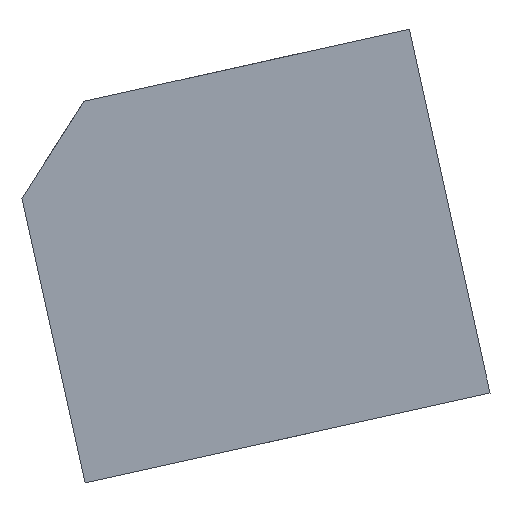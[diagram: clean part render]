
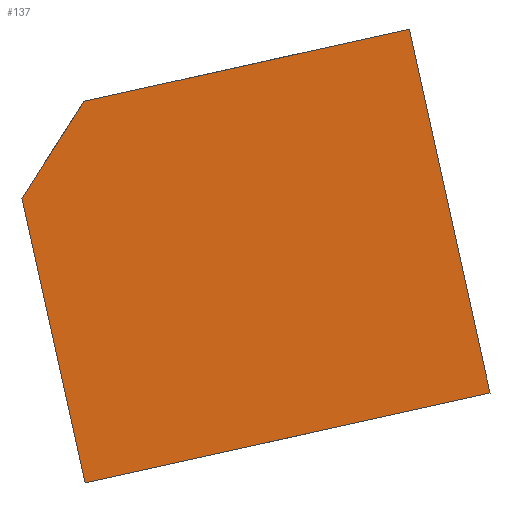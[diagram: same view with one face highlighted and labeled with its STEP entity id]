
A CAD part, front view. The second image highlights one B-rep face of the part: STEP entity #137.
In plain terms, the highlighted planar face has unit normal (0, -1, 0).
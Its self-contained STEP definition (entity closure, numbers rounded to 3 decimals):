
#21 = EDGE_CURVE('',#22,#24,#26,.T.);
#22 = VERTEX_POINT('',#23);
#23 = CARTESIAN_POINT('',(7.597,-85.8,-202.09));
#24 = VERTEX_POINT('',#25);
#25 = CARTESIAN_POINT('',(5.351,-85.8,-191.961));
#26 = SURFACE_CURVE('',#27,(#31,#43),.PCURVE_S1.);
#27 = LINE('',#28,#29);
#28 = CARTESIAN_POINT('',(7.597,-85.8,-202.09));
#29 = VECTOR('',#30,1.);
#30 = DIRECTION('',(-0.216,0.,0.976));
#31 = PCURVE('',#32,#37);
#32 = PLANE('',#33);
#33 = AXIS2_PLACEMENT_3D('',#34,#35,#36);
#34 = CARTESIAN_POINT('',(7.597,-85.8,-202.09));
#35 = DIRECTION('',(0.976,0.,0.216));
#36 = DIRECTION('',(-0.216,0.,0.976));
#37 = DEFINITIONAL_REPRESENTATION('',(#38),#42);
#38 = LINE('',#39,#40);
#39 = CARTESIAN_POINT('',(0.,0.));
#40 = VECTOR('',#41,1.);
#41 = DIRECTION('',(1.,0.));
#42 = ( GEOMETRIC_REPRESENTATION_CONTEXT(2) 
PARAMETRIC_REPRESENTATION_CONTEXT() REPRESENTATION_CONTEXT('2D SPACE',''
  ) );
#43 = PCURVE('',#44,#49);
#44 = PLANE('',#45);
#45 = AXIS2_PLACEMENT_3D('',#46,#47,#48);
#46 = CARTESIAN_POINT('',(7.597,-85.8,-202.09));
#47 = DIRECTION('',(0.,1.,0.));
#48 = DIRECTION('',(-0.216,0.,0.976));
#49 = DEFINITIONAL_REPRESENTATION('',(#50),#54);
#50 = LINE('',#51,#52);
#51 = CARTESIAN_POINT('',(0.,0.));
#52 = VECTOR('',#53,1.);
#53 = DIRECTION('',(1.,0.));
#54 = ( GEOMETRIC_REPRESENTATION_CONTEXT(2) 
PARAMETRIC_REPRESENTATION_CONTEXT() REPRESENTATION_CONTEXT('2D SPACE',''
  ) );
#72 = PLANE('',#73);
#73 = AXIS2_PLACEMENT_3D('',#74,#75,#76);
#74 = CARTESIAN_POINT('',(7.597,-85.8,-202.09));
#75 = DIRECTION('',(-0.216,0.,0.976));
#76 = DIRECTION('',(0.976,0.,0.216));
#126 = PLANE('',#127);
#127 = AXIS2_PLACEMENT_3D('',#128,#129,#130);
#128 = CARTESIAN_POINT('',(7.631,-99.8,-188.383));
#129 = DIRECTION('',(-0.843,0.,0.537));
#130 = DIRECTION('',(-0.537,0.,-0.843));
#137 = ADVANCED_FACE('',(#138),#44,.F.);
#138 = FACE_BOUND('',#139,.F.);
#139 = EDGE_LOOP('',(#140,#170,#191,#192,#215));
#140 = ORIENTED_EDGE('',*,*,#141,.F.);
#141 = EDGE_CURVE('',#142,#144,#146,.T.);
#142 = VERTEX_POINT('',#143);
#143 = CARTESIAN_POINT('',(22.021,-85.8,-198.892));
#144 = VERTEX_POINT('',#145);
#145 = CARTESIAN_POINT('',(19.148,-85.8,-185.932));
#146 = SURFACE_CURVE('',#147,(#151,#158),.PCURVE_S1.);
#147 = LINE('',#148,#149);
#148 = CARTESIAN_POINT('',(22.021,-85.8,-198.892));
#149 = VECTOR('',#150,1.);
#150 = DIRECTION('',(-0.216,0.,0.976));
#151 = PCURVE('',#44,#152);
#152 = DEFINITIONAL_REPRESENTATION('',(#153),#157);
#153 = LINE('',#154,#155);
#154 = CARTESIAN_POINT('',(0.,14.775));
#155 = VECTOR('',#156,1.);
#156 = DIRECTION('',(1.,0.));
#157 = ( GEOMETRIC_REPRESENTATION_CONTEXT(2) 
PARAMETRIC_REPRESENTATION_CONTEXT() REPRESENTATION_CONTEXT('2D SPACE',''
  ) );
#158 = PCURVE('',#159,#164);
#159 = PLANE('',#160);
#160 = AXIS2_PLACEMENT_3D('',#161,#162,#163);
#161 = CARTESIAN_POINT('',(22.021,-85.8,-198.892));
#162 = DIRECTION('',(0.976,0.,0.216));
#163 = DIRECTION('',(-0.216,0.,0.976));
#164 = DEFINITIONAL_REPRESENTATION('',(#165),#169);
#165 = LINE('',#166,#167);
#166 = CARTESIAN_POINT('',(0.,0.));
#167 = VECTOR('',#168,1.);
#168 = DIRECTION('',(1.,0.));
#169 = ( GEOMETRIC_REPRESENTATION_CONTEXT(2) 
PARAMETRIC_REPRESENTATION_CONTEXT() REPRESENTATION_CONTEXT('2D SPACE',''
  ) );
#170 = ORIENTED_EDGE('',*,*,#171,.F.);
#171 = EDGE_CURVE('',#22,#142,#172,.T.);
#172 = SURFACE_CURVE('',#173,(#177,#184),.PCURVE_S1.);
#173 = LINE('',#174,#175);
#174 = CARTESIAN_POINT('',(7.597,-85.8,-202.09));
#175 = VECTOR('',#176,1.);
#176 = DIRECTION('',(0.976,0.,0.216));
#177 = PCURVE('',#44,#178);
#178 = DEFINITIONAL_REPRESENTATION('',(#179),#183);
#179 = LINE('',#180,#181);
#180 = CARTESIAN_POINT('',(0.,0.));
#181 = VECTOR('',#182,1.);
#182 = DIRECTION('',(0.,1.));
#183 = ( GEOMETRIC_REPRESENTATION_CONTEXT(2) 
PARAMETRIC_REPRESENTATION_CONTEXT() REPRESENTATION_CONTEXT('2D SPACE',''
  ) );
#184 = PCURVE('',#72,#185);
#185 = DEFINITIONAL_REPRESENTATION('',(#186),#190);
#186 = LINE('',#187,#188);
#187 = CARTESIAN_POINT('',(0.,0.));
#188 = VECTOR('',#189,1.);
#189 = DIRECTION('',(1.,0.));
#190 = ( GEOMETRIC_REPRESENTATION_CONTEXT(2) 
PARAMETRIC_REPRESENTATION_CONTEXT() REPRESENTATION_CONTEXT('2D SPACE',''
  ) );
#191 = ORIENTED_EDGE('',*,*,#21,.T.);
#192 = ORIENTED_EDGE('',*,*,#193,.T.);
#193 = EDGE_CURVE('',#24,#194,#196,.T.);
#194 = VERTEX_POINT('',#195);
#195 = CARTESIAN_POINT('',(7.555,-85.8,-188.502));
#196 = SURFACE_CURVE('',#197,(#201,#208),.PCURVE_S1.);
#197 = LINE('',#198,#199);
#198 = CARTESIAN_POINT('',(4.52,-85.8,-193.266));
#199 = VECTOR('',#200,1.);
#200 = DIRECTION('',(0.537,0.,0.843));
#201 = PCURVE('',#44,#202);
#202 = DEFINITIONAL_REPRESENTATION('',(#203),#207);
#203 = LINE('',#204,#205);
#204 = CARTESIAN_POINT('',(9.281,-1.094));
#205 = VECTOR('',#206,1.);
#206 = DIRECTION('',(0.707,0.707));
#207 = ( GEOMETRIC_REPRESENTATION_CONTEXT(2) 
PARAMETRIC_REPRESENTATION_CONTEXT() REPRESENTATION_CONTEXT('2D SPACE',''
  ) );
#208 = PCURVE('',#126,#209);
#209 = DEFINITIONAL_REPRESENTATION('',(#210),#214);
#210 = LINE('',#211,#212);
#211 = CARTESIAN_POINT('',(5.789,-14.));
#212 = VECTOR('',#213,1.);
#213 = DIRECTION('',(-1.,0.));
#214 = ( GEOMETRIC_REPRESENTATION_CONTEXT(2) 
PARAMETRIC_REPRESENTATION_CONTEXT() REPRESENTATION_CONTEXT('2D SPACE',''
  ) );
#215 = ORIENTED_EDGE('',*,*,#216,.T.);
#216 = EDGE_CURVE('',#194,#144,#217,.T.);
#217 = SURFACE_CURVE('',#218,(#222,#229),.PCURVE_S1.);
#218 = LINE('',#219,#220);
#219 = CARTESIAN_POINT('',(4.723,-85.8,-189.13));
#220 = VECTOR('',#221,1.);
#221 = DIRECTION('',(0.976,0.,0.216));
#222 = PCURVE('',#44,#223);
#223 = DEFINITIONAL_REPRESENTATION('',(#224),#228);
#224 = LINE('',#225,#226);
#225 = CARTESIAN_POINT('',(13.275,0.));
#226 = VECTOR('',#227,1.);
#227 = DIRECTION('',(0.,1.));
#228 = ( GEOMETRIC_REPRESENTATION_CONTEXT(2) 
PARAMETRIC_REPRESENTATION_CONTEXT() REPRESENTATION_CONTEXT('2D SPACE',''
  ) );
#229 = PCURVE('',#230,#235);
#230 = PLANE('',#231);
#231 = AXIS2_PLACEMENT_3D('',#232,#233,#234);
#232 = CARTESIAN_POINT('',(4.723,-85.8,-189.13));
#233 = DIRECTION('',(-0.216,0.,0.976));
#234 = DIRECTION('',(0.976,0.,0.216));
#235 = DEFINITIONAL_REPRESENTATION('',(#236),#240);
#236 = LINE('',#237,#238);
#237 = CARTESIAN_POINT('',(0.,0.));
#238 = VECTOR('',#239,1.);
#239 = DIRECTION('',(1.,0.));
#240 = ( GEOMETRIC_REPRESENTATION_CONTEXT(2) 
PARAMETRIC_REPRESENTATION_CONTEXT() REPRESENTATION_CONTEXT('2D SPACE',''
  ) );
